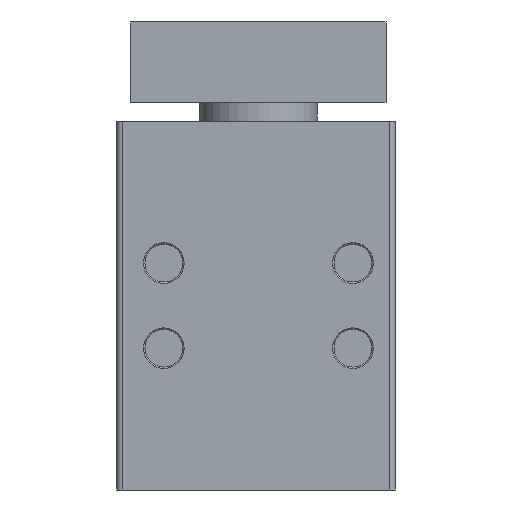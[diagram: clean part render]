
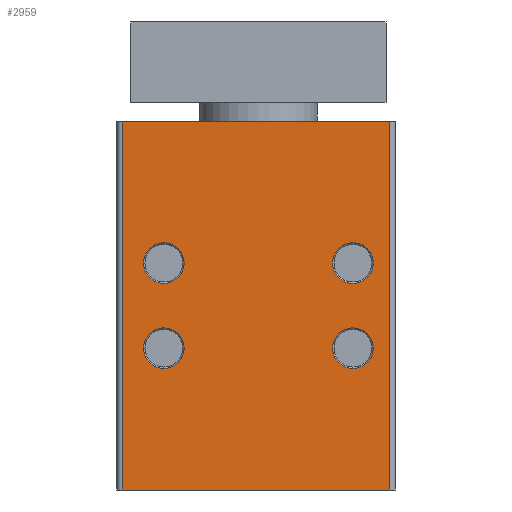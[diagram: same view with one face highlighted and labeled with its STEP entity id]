
A CAD part, front view. The second image highlights one B-rep face of the part: STEP entity #2959.
In plain terms, the highlighted planar face has unit normal (0, -1, 0).
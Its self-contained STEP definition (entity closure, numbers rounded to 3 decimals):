
#1341=CARTESIAN_POINT('',(27.8,-74.0,-82.));
#1342=VERTEX_POINT('',#1341);
#1350=CARTESIAN_POINT('',(-28.8,-74.0,-82.));
#1351=VERTEX_POINT('',#1350);
#1352=CARTESIAN_POINT('',(-28.8,-74.0,-82.));
#1353=DIRECTION('',(1.0,0.0,0.0));
#1354=VECTOR('',#1353,56.6);
#1355=LINE('',#1352,#1354);
#1356=EDGE_CURVE('',#1351,#1342,#1355,.T.);
#1914=CARTESIAN_POINT('',(-28.8,-74.0,-4.));
#1915=VERTEX_POINT('',#1914);
#1923=CARTESIAN_POINT('',(27.8,-74.0,-4.));
#1924=VERTEX_POINT('',#1923);
#1925=CARTESIAN_POINT('',(27.8,-74.0,-4.));
#1926=DIRECTION('',(-1.0,0.0,0.0));
#1927=VECTOR('',#1926,56.6);
#1928=LINE('',#1925,#1927);
#1929=EDGE_CURVE('',#1924,#1915,#1928,.T.);
#2890=CARTESIAN_POINT('',(-15.7,-74.0,-34.0));
#2891=VERTEX_POINT('',#2890);
#2892=CARTESIAN_POINT('',(-20.,-74.0,-34.0));
#2893=DIRECTION('',(0.0,-1.0,0.0));
#2894=DIRECTION('',(-1.0,0.0,0.0));
#2895=AXIS2_PLACEMENT_3D('',#2892,#2893,#2894);
#2896=CIRCLE('',#2895,4.3);
#2897=EDGE_CURVE('',#2891,#2891,#2896,.T.);
#2902=CARTESIAN_POINT('',(-28.8,-74.0,-4.));
#2903=DIRECTION('',(0.0,-1.0,0.0));
#2904=DIRECTION('',(0.0,0.0,-1.0));
#2905=AXIS2_PLACEMENT_3D('',#2902,#2903,#2904);
#2906=PLANE('',#2905);
#2907=ORIENTED_EDGE('',*,*,#1356,.T.);
#2908=CARTESIAN_POINT('',(27.8,-74.0,-4.));
#2909=DIRECTION('',(0.0,0.0,-1.0));
#2910=VECTOR('',#2909,78.);
#2911=LINE('',#2908,#2910);
#2912=EDGE_CURVE('',#1924,#1342,#2911,.T.);
#2913=ORIENTED_EDGE('',*,*,#2912,.F.);
#2914=ORIENTED_EDGE('',*,*,#1929,.T.);
#2915=CARTESIAN_POINT('',(-28.8,-74.0,-4.));
#2916=DIRECTION('',(0.0,0.0,-1.0));
#2917=VECTOR('',#2916,78.);
#2918=LINE('',#2915,#2917);
#2919=EDGE_CURVE('',#1915,#1351,#2918,.T.);
#2920=ORIENTED_EDGE('',*,*,#2919,.T.);
#2921=EDGE_LOOP('',(#2907,#2913,#2914,#2920));
#2922=FACE_OUTER_BOUND('',#2921,.T.);
#2923=CARTESIAN_POINT('',(-15.7,-74.0,-52.));
#2924=VERTEX_POINT('',#2923);
#2925=CARTESIAN_POINT('',(-20.,-74.0,-52.));
#2926=DIRECTION('',(0.0,-1.0,0.0));
#2927=DIRECTION('',(-1.0,0.0,0.0));
#2928=AXIS2_PLACEMENT_3D('',#2925,#2926,#2927);
#2929=CIRCLE('',#2928,4.3);
#2930=EDGE_CURVE('',#2924,#2924,#2929,.T.);
#2931=ORIENTED_EDGE('',*,*,#2930,.F.);
#2932=EDGE_LOOP('',(#2931));
#2933=FACE_BOUND('',#2932,.T.);
#2934=CARTESIAN_POINT('',(24.3,-74.0,-34.0));
#2935=VERTEX_POINT('',#2934);
#2936=CARTESIAN_POINT('',(20.,-74.0,-34.0));
#2937=DIRECTION('',(0.0,-1.0,0.0));
#2938=DIRECTION('',(-1.0,0.0,0.0));
#2939=AXIS2_PLACEMENT_3D('',#2936,#2937,#2938);
#2940=CIRCLE('',#2939,4.3);
#2941=EDGE_CURVE('',#2935,#2935,#2940,.T.);
#2942=ORIENTED_EDGE('',*,*,#2941,.F.);
#2943=EDGE_LOOP('',(#2942));
#2944=FACE_BOUND('',#2943,.T.);
#2945=CARTESIAN_POINT('',(24.3,-74.0,-52.));
#2946=VERTEX_POINT('',#2945);
#2947=CARTESIAN_POINT('',(20.,-74.0,-52.));
#2948=DIRECTION('',(0.0,-1.0,0.0));
#2949=DIRECTION('',(-1.0,0.0,0.0));
#2950=AXIS2_PLACEMENT_3D('',#2947,#2948,#2949);
#2951=CIRCLE('',#2950,4.3);
#2952=EDGE_CURVE('',#2946,#2946,#2951,.T.);
#2953=ORIENTED_EDGE('',*,*,#2952,.F.);
#2954=EDGE_LOOP('',(#2953));
#2955=FACE_BOUND('',#2954,.T.);
#2956=ORIENTED_EDGE('',*,*,#2897,.F.);
#2957=EDGE_LOOP('',(#2956));
#2958=FACE_BOUND('',#2957,.T.);
#2959=ADVANCED_FACE('',(#2922,#2933,#2944,#2955,#2958),#2906,.T.);
